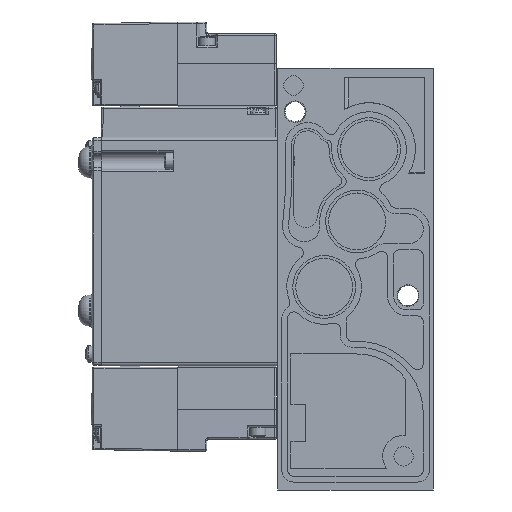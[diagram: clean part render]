
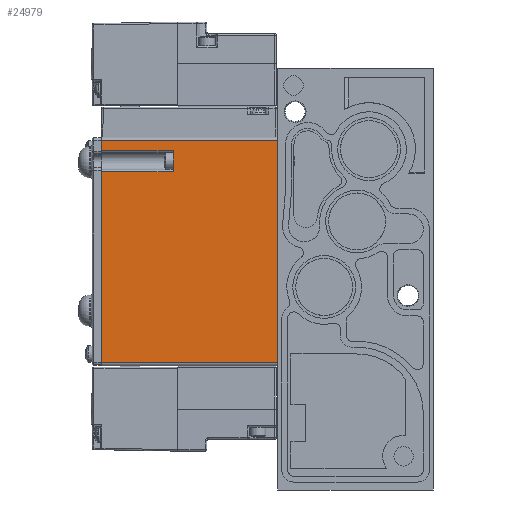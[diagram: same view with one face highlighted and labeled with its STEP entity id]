
A CAD part, left-side view. The second image highlights one B-rep face of the part: STEP entity #24979.
In plain terms, the highlighted planar face has unit normal (-1, 0, 0).
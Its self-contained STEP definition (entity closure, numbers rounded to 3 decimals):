
#20 = DIRECTION ( 'NONE',  ( 0., 0., 1. ) ) ;
#1078 = ORIENTED_EDGE ( 'NONE', *, *, #10911, .T. ) ;
#2667 = CARTESIAN_POINT ( 'NONE',  ( -12., 59., 37.25 ) ) ;
#4009 = CARTESIAN_POINT ( 'NONE',  ( -12., 59., 38.25 ) ) ;
#4673 = DIRECTION ( 'NONE',  ( 0., 1., 0. ) ) ;
#8416 = ORIENTED_EDGE ( 'NONE', *, *, #60425, .F. ) ;
#9944 = DIRECTION ( 'NONE',  ( 0., 1., 0. ) ) ;
#10911 = EDGE_CURVE ( 'NONE', #91741, #19147, #22434, .T. ) ;
#11629 = DIRECTION ( 'NONE',  ( 0., 0., 1. ) ) ;
#12486 = LINE ( 'NONE', #2667, #50567 ) ;
#12934 = CARTESIAN_POINT ( 'NONE',  ( -12., 0., 37.25 ) ) ;
#13955 = VERTEX_POINT ( 'NONE', #63927 ) ;
#16341 = VECTOR ( 'NONE', #34389, 1000. ) ;
#17109 = VECTOR ( 'NONE', #60286, 1000. ) ;
#19147 = VERTEX_POINT ( 'NONE', #31424 ) ;
#22434 = LINE ( 'NONE', #79003, #98728 ) ;
#23202 = ORIENTED_EDGE ( 'NONE', *, *, #86789, .F. ) ;
#24979 = ADVANCED_FACE ( 'NONE', ( #60323 ), #72224, .T. ) ;
#26400 = VECTOR ( 'NONE', #94123, 1000. ) ;
#26769 = ORIENTED_EDGE ( 'NONE', *, *, #79397, .T. ) ;
#27424 = LINE ( 'NONE', #57865, #45130 ) ;
#28459 = CARTESIAN_POINT ( 'NONE',  ( -12., 59., 37.25 ) ) ;
#29583 = VERTEX_POINT ( 'NONE', #56217 ) ;
#31424 = CARTESIAN_POINT ( 'NONE',  ( -12., 0., -37.25 ) ) ;
#34389 = DIRECTION ( 'NONE',  ( 0., 0., -1. ) ) ;
#36592 = LINE ( 'NONE', #72521, #16341 ) ;
#36862 = EDGE_CURVE ( 'NONE', #97086, #29583, #46483, .T. ) ;
#40768 = DIRECTION ( 'NONE',  ( 0., -1., 0. ) ) ;
#41877 = ORIENTED_EDGE ( 'NONE', *, *, #36862, .F. ) ;
#43496 = CARTESIAN_POINT ( 'NONE',  ( -12., 35., 33.75 ) ) ;
#43723 = CARTESIAN_POINT ( 'NONE',  ( -12., 59., -37.25 ) ) ;
#43952 = VERTEX_POINT ( 'NONE', #28459 ) ;
#45130 = VECTOR ( 'NONE', #4673, 1000. ) ;
#46483 = LINE ( 'NONE', #86387, #26400 ) ;
#47443 = LINE ( 'NONE', #72591, #88067 ) ;
#48429 = CARTESIAN_POINT ( 'NONE',  ( -12., 59., 26.75 ) ) ;
#50567 = VECTOR ( 'NONE', #9944, 1000. ) ;
#52671 = CARTESIAN_POINT ( 'NONE',  ( -12., 59., 38.25 ) ) ;
#55437 = ORIENTED_EDGE ( 'NONE', *, *, #96396, .T. ) ;
#56217 = CARTESIAN_POINT ( 'NONE',  ( -12., 59., 33.75 ) ) ;
#56993 = EDGE_CURVE ( 'NONE', #81549, #19147, #36592, .T. ) ;
#57188 = DIRECTION ( 'NONE',  ( -1., 0., 0. ) ) ;
#57865 = CARTESIAN_POINT ( 'NONE',  ( -12., 35., 26.75 ) ) ;
#60286 = DIRECTION ( 'NONE',  ( 0., 0., 1. ) ) ;
#60323 = FACE_OUTER_BOUND ( 'NONE', #97059, .T. ) ;
#60425 = EDGE_CURVE ( 'NONE', #91741, #91501, #77757, .T. ) ;
#63927 = CARTESIAN_POINT ( 'NONE',  ( -12., 35., 26.75 ) ) ;
#72224 = PLANE ( 'NONE',  #96168 ) ;
#72521 = CARTESIAN_POINT ( 'NONE',  ( -12., 0., 38.25 ) ) ;
#72591 = CARTESIAN_POINT ( 'NONE',  ( -12., 59., 38.25 ) ) ;
#73935 = VECTOR ( 'NONE', #20, 1000. ) ;
#75890 = CARTESIAN_POINT ( 'NONE',  ( -12., 35., 26.75 ) ) ;
#77757 = LINE ( 'NONE', #52671, #17109 ) ;
#79003 = CARTESIAN_POINT ( 'NONE',  ( -12., 0., -37.25 ) ) ;
#79397 = EDGE_CURVE ( 'NONE', #81549, #43952, #12486, .T. ) ;
#81549 = VERTEX_POINT ( 'NONE', #12934 ) ;
#81634 = ORIENTED_EDGE ( 'NONE', *, *, #94038, .F. ) ;
#82966 = ORIENTED_EDGE ( 'NONE', *, *, #56993, .F. ) ;
#86387 = CARTESIAN_POINT ( 'NONE',  ( -12., 35., 33.75 ) ) ;
#86789 = EDGE_CURVE ( 'NONE', #29583, #43952, #47443, .T. ) ;
#87704 = DIRECTION ( 'NONE',  ( 0., 0., 1. ) ) ;
#88067 = VECTOR ( 'NONE', #87704, 1000. ) ;
#91501 = VERTEX_POINT ( 'NONE', #48429 ) ;
#91741 = VERTEX_POINT ( 'NONE', #43723 ) ;
#94038 = EDGE_CURVE ( 'NONE', #13955, #97086, #94414, .T. ) ;
#94123 = DIRECTION ( 'NONE',  ( 0., 1., 0. ) ) ;
#94414 = LINE ( 'NONE', #75890, #73935 ) ;
#96168 = AXIS2_PLACEMENT_3D ( 'NONE', #4009, #57188, #11629 ) ;
#96396 = EDGE_CURVE ( 'NONE', #13955, #91501, #27424, .T. ) ;
#97059 = EDGE_LOOP ( 'NONE', ( #8416, #1078, #82966, #26769, #23202, #41877, #81634, #55437 ) ) ;
#97086 = VERTEX_POINT ( 'NONE', #43496 ) ;
#98728 = VECTOR ( 'NONE', #40768, 1000. ) ;
